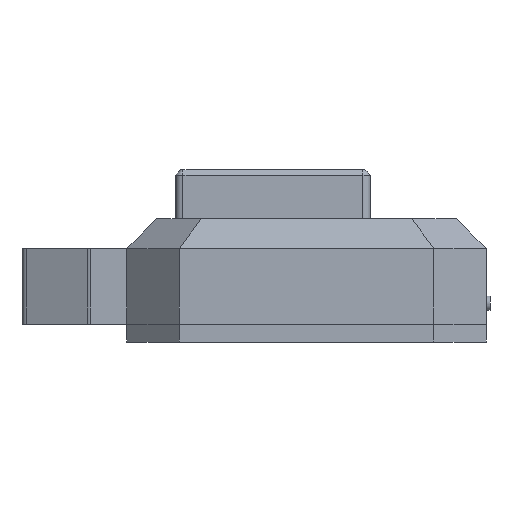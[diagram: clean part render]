
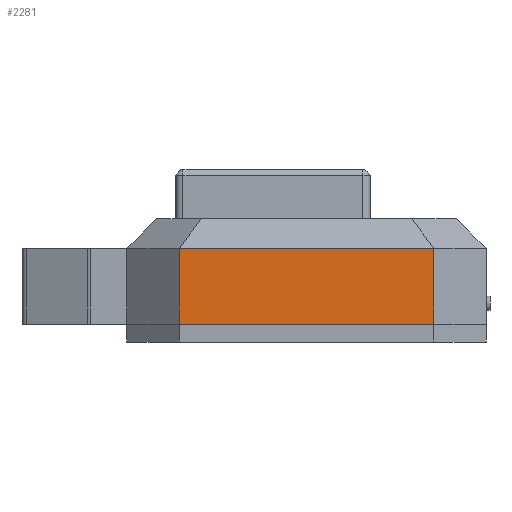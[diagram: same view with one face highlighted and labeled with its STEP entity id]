
A CAD part, left-side view. The second image highlights one B-rep face of the part: STEP entity #2281.
In plain terms, the highlighted planar face has unit normal (-1, 0, 0).
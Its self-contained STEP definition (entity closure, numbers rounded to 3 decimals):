
#78 = PLANE('',#79);
#79 = AXIS2_PLACEMENT_3D('',#80,#81,#82);
#80 = CARTESIAN_POINT('',(0.,0.,2.4));
#81 = DIRECTION('',(0.,0.,1.));
#82 = DIRECTION('',(1.,0.,-0.));
#106 = PLANE('',#107);
#107 = AXIS2_PLACEMENT_3D('',#108,#109,#110);
#108 = CARTESIAN_POINT('',(-27.,-17.,2.4));
#109 = DIRECTION('',(0.707,0.707,-0.));
#110 = DIRECTION('',(0.707,-0.707,0.));
#453 = EDGE_CURVE('',#454,#456,#458,.T.);
#454 = VERTEX_POINT('',#455);
#455 = CARTESIAN_POINT('',(-27.,17.,2.4));
#456 = VERTEX_POINT('',#457);
#457 = CARTESIAN_POINT('',(-27.,-17.,2.4));
#458 = SURFACE_CURVE('',#459,(#463,#470),.PCURVE_S1.);
#459 = LINE('',#460,#461);
#460 = CARTESIAN_POINT('',(-27.,17.,2.4));
#461 = VECTOR('',#462,1.);
#462 = DIRECTION('',(0.,-1.,0.));
#463 = PCURVE('',#78,#464);
#464 = DEFINITIONAL_REPRESENTATION('',(#465),#469);
#465 = LINE('',#466,#467);
#466 = CARTESIAN_POINT('',(-27.,17.));
#467 = VECTOR('',#468,1.);
#468 = DIRECTION('',(0.,-1.));
#469 = ( GEOMETRIC_REPRESENTATION_CONTEXT(2) 
PARAMETRIC_REPRESENTATION_CONTEXT() REPRESENTATION_CONTEXT('2D SPACE',''
  ) );
#470 = PCURVE('',#471,#476);
#471 = PLANE('',#472);
#472 = AXIS2_PLACEMENT_3D('',#473,#474,#475);
#473 = CARTESIAN_POINT('',(-27.,17.,2.4));
#474 = DIRECTION('',(1.,0.,-0.));
#475 = DIRECTION('',(0.,-1.,0.));
#476 = DEFINITIONAL_REPRESENTATION('',(#477),#481);
#477 = LINE('',#478,#479);
#478 = CARTESIAN_POINT('',(0.,0.));
#479 = VECTOR('',#480,1.);
#480 = DIRECTION('',(1.,0.));
#481 = ( GEOMETRIC_REPRESENTATION_CONTEXT(2) 
PARAMETRIC_REPRESENTATION_CONTEXT() REPRESENTATION_CONTEXT('2D SPACE',''
  ) );
#988 = PLANE('',#989);
#989 = AXIS2_PLACEMENT_3D('',#990,#991,#992);
#990 = CARTESIAN_POINT('',(-20.,24.,2.4));
#991 = DIRECTION('',(0.707,-0.707,0.));
#992 = DIRECTION('',(-0.707,-0.707,0.));
#1673 = EDGE_CURVE('',#456,#1674,#1676,.T.);
#1674 = VERTEX_POINT('',#1675);
#1675 = CARTESIAN_POINT('',(-27.,-17.,12.5));
#1676 = SURFACE_CURVE('',#1677,(#1681,#1688),.PCURVE_S1.);
#1677 = LINE('',#1678,#1679);
#1678 = CARTESIAN_POINT('',(-27.,-17.,2.4));
#1679 = VECTOR('',#1680,1.);
#1680 = DIRECTION('',(0.,0.,1.));
#1681 = PCURVE('',#106,#1682);
#1682 = DEFINITIONAL_REPRESENTATION('',(#1683),#1687);
#1683 = LINE('',#1684,#1685);
#1684 = CARTESIAN_POINT('',(0.,0.));
#1685 = VECTOR('',#1686,1.);
#1686 = DIRECTION('',(0.,-1.));
#1687 = ( GEOMETRIC_REPRESENTATION_CONTEXT(2) 
PARAMETRIC_REPRESENTATION_CONTEXT() REPRESENTATION_CONTEXT('2D SPACE',''
  ) );
#1688 = PCURVE('',#471,#1689);
#1689 = DEFINITIONAL_REPRESENTATION('',(#1690),#1694);
#1690 = LINE('',#1691,#1692);
#1691 = CARTESIAN_POINT('',(34.,0.));
#1692 = VECTOR('',#1693,1.);
#1693 = DIRECTION('',(0.,-1.));
#1694 = ( GEOMETRIC_REPRESENTATION_CONTEXT(2) 
PARAMETRIC_REPRESENTATION_CONTEXT() REPRESENTATION_CONTEXT('2D SPACE',''
  ) );
#2281 = ADVANCED_FACE('',(#2282),#471,.F.);
#2282 = FACE_BOUND('',#2283,.F.);
#2283 = EDGE_LOOP('',(#2284,#2307,#2332,#2333));
#2284 = ORIENTED_EDGE('',*,*,#2285,.T.);
#2285 = EDGE_CURVE('',#454,#2286,#2288,.T.);
#2286 = VERTEX_POINT('',#2287);
#2287 = CARTESIAN_POINT('',(-27.,17.,12.5));
#2288 = SURFACE_CURVE('',#2289,(#2293,#2300),.PCURVE_S1.);
#2289 = LINE('',#2290,#2291);
#2290 = CARTESIAN_POINT('',(-27.,17.,2.4));
#2291 = VECTOR('',#2292,1.);
#2292 = DIRECTION('',(0.,0.,1.));
#2293 = PCURVE('',#471,#2294);
#2294 = DEFINITIONAL_REPRESENTATION('',(#2295),#2299);
#2295 = LINE('',#2296,#2297);
#2296 = CARTESIAN_POINT('',(0.,0.));
#2297 = VECTOR('',#2298,1.);
#2298 = DIRECTION('',(0.,-1.));
#2299 = ( GEOMETRIC_REPRESENTATION_CONTEXT(2) 
PARAMETRIC_REPRESENTATION_CONTEXT() REPRESENTATION_CONTEXT('2D SPACE',''
  ) );
#2300 = PCURVE('',#988,#2301);
#2301 = DEFINITIONAL_REPRESENTATION('',(#2302),#2306);
#2302 = LINE('',#2303,#2304);
#2303 = CARTESIAN_POINT('',(9.899,0.));
#2304 = VECTOR('',#2305,1.);
#2305 = DIRECTION('',(0.,-1.));
#2306 = ( GEOMETRIC_REPRESENTATION_CONTEXT(2) 
PARAMETRIC_REPRESENTATION_CONTEXT() REPRESENTATION_CONTEXT('2D SPACE',''
  ) );
#2307 = ORIENTED_EDGE('',*,*,#2308,.T.);
#2308 = EDGE_CURVE('',#2286,#1674,#2309,.T.);
#2309 = SURFACE_CURVE('',#2310,(#2314,#2321),.PCURVE_S1.);
#2310 = LINE('',#2311,#2312);
#2311 = CARTESIAN_POINT('',(-27.,17.,12.5));
#2312 = VECTOR('',#2313,1.);
#2313 = DIRECTION('',(0.,-1.,0.));
#2314 = PCURVE('',#471,#2315);
#2315 = DEFINITIONAL_REPRESENTATION('',(#2316),#2320);
#2316 = LINE('',#2317,#2318);
#2317 = CARTESIAN_POINT('',(0.,-10.1));
#2318 = VECTOR('',#2319,1.);
#2319 = DIRECTION('',(1.,0.));
#2320 = ( GEOMETRIC_REPRESENTATION_CONTEXT(2) 
PARAMETRIC_REPRESENTATION_CONTEXT() REPRESENTATION_CONTEXT('2D SPACE',''
  ) );
#2321 = PCURVE('',#2322,#2327);
#2322 = B_SPLINE_SURFACE_WITH_KNOTS('',1,1,(
    (#2323,#2324)
    ,(#2325,#2326
    )),.UNSPECIFIED.,.F.,.F.,.F.,(2,2),(2,2),(0.,34.),(0.,1.),
  .PIECEWISE_BEZIER_KNOTS.);
#2323 = CARTESIAN_POINT('',(-27.,17.,12.5));
#2324 = CARTESIAN_POINT('',(-23.,14.037,16.5));
#2325 = CARTESIAN_POINT('',(-27.,-17.,12.5));
#2326 = CARTESIAN_POINT('',(-23.,-14.037,16.5));
#2327 = DEFINITIONAL_REPRESENTATION('',(#2328),#2331);
#2328 = B_SPLINE_CURVE_WITH_KNOTS('',1,(#2329,#2330),.UNSPECIFIED.,.F.,
  .F.,(2,2),(0.,34.),.PIECEWISE_BEZIER_KNOTS.);
#2329 = CARTESIAN_POINT('',(0.,0.));
#2330 = CARTESIAN_POINT('',(34.,0.));
#2331 = ( GEOMETRIC_REPRESENTATION_CONTEXT(2) 
PARAMETRIC_REPRESENTATION_CONTEXT() REPRESENTATION_CONTEXT('2D SPACE',''
  ) );
#2332 = ORIENTED_EDGE('',*,*,#1673,.F.);
#2333 = ORIENTED_EDGE('',*,*,#453,.F.);
